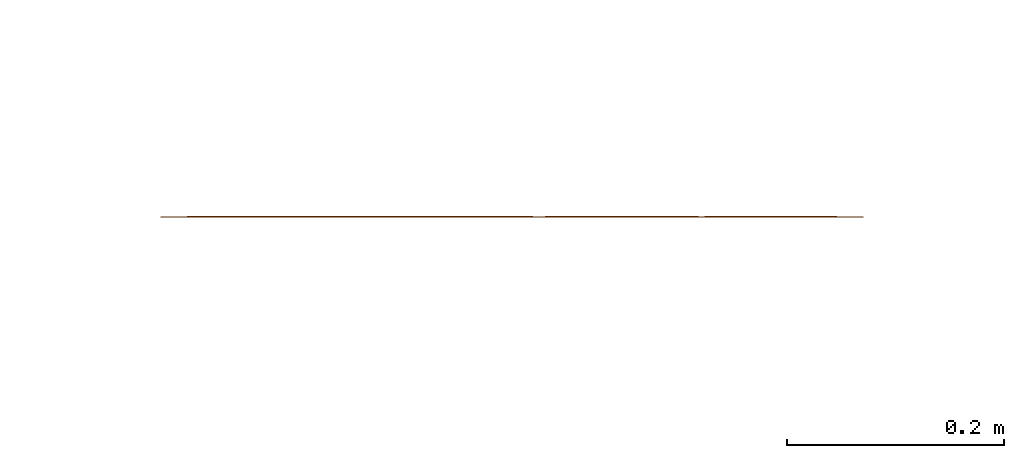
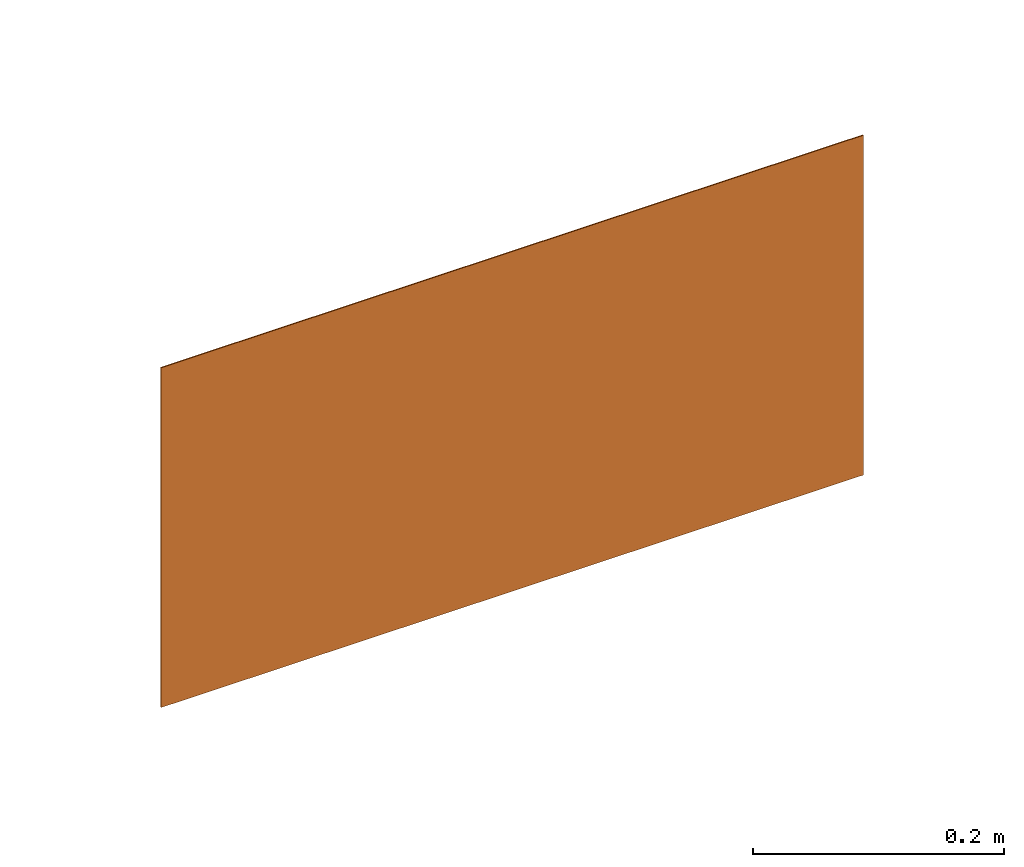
# One storey, part 51 of 119: 1 proxy.
"""IFC2X3 building model written with IfcOpenShell, lengths in metres."""

import ifcopenshell
import ifcopenshell.guid

model = None  # the IFC model being written
_history = None  # IfcOwnerHistory: only IFC2X3 demands one
_inside = {}  # id of a spatial element -> (the spatial element, [elements in it])
_under = {}  # id of a project, library or spatial element -> (it, [spatial elements below it])
_declared = {}  # id of a project -> (the project, [libraries it declares])
_typed = {}  # id of a type object -> (the type object, [elements of that type])
_made_of = {}  # id of a material, layer set ... -> (it, [elements and type objects made of it])


def new_model(schema):
    """Start an empty IFC model of exactly this schema.

    Asked for "IFC4X3", IfcOpenShell would pick the latest addendum, in which some entities
    have other attributes; the version numbers below select the first issue.
    IFC2X3 requires an IfcOwnerHistory on every rooted entity: one is made here for all.
    """
    global model, _history
    if schema == "IFC4X3":
        model = ifcopenshell.file(schema_version=(4, 3, 0, 0))
    else:
        model = ifcopenshell.file(schema=schema)
    _inside.clear()
    _under.clear()
    _declared.clear()
    _typed.clear()
    _made_of.clear()
    _history = None
    if model.schema == "IFC2X3":
        org = make("IfcOrganization", Name="unknown")
        user = make(
            "IfcPersonAndOrganization",
            ThePerson=make("IfcPerson", FamilyName="unknown"),
            TheOrganization=org,
        )
        app = make(
            "IfcApplication",
            ApplicationDeveloper=org,
            Version="unknown",
            ApplicationFullName="unknown",
            ApplicationIdentifier="unknown",
        )
        _history = make(
            "IfcOwnerHistory",
            OwningUser=user,
            OwningApplication=app,
            ChangeAction="ADDED",
            CreationDate=0,
        )
    return model


def make(cls, **values):
    """One entity of the class cls with the attributes given. An attribute that is None is left unset."""
    return model.create_entity(
        cls, **{name: value for name, value in values.items() if value is not None}
    )


def entity(cls, *values):
    """Any entity or typed value of the class cls, its attributes in the order of the schema. None: left unset."""
    e = model.create_entity(cls)
    for i, value in enumerate(values):
        if value is not None:
            e[i] = value
    return e


def rooted(cls, **values):
    """An entity with a GlobalId (a new one), such as an element, a storey or a relation."""
    return make(cls, GlobalId=ifcopenshell.guid.new(), OwnerHistory=_history, **values)


def si_unit(unit_type, name, prefix=None):
    """IfcSIUnit, for example si_unit("LENGTHUNIT", "METRE", prefix="MILLI")."""
    return make("IfcSIUnit", UnitType=unit_type, Prefix=prefix, Name=name)


def converted_unit(unit_type, name, factor, base, dimensions=None, offset=None):
    """IfcConversionBasedUnit, such as the inch: factor (a typed value) times the base unit."""
    return make(
        "IfcConversionBasedUnit"
        if offset is None
        else "IfcConversionBasedUnitWithOffset",
        ConversionOffset=offset,
        Dimensions=None
        if dimensions is None
        else entity("IfcDimensionalExponents", *dimensions),
        UnitType=unit_type,
        Name=name,
        ConversionFactor=make(
            "IfcMeasureWithUnit", ValueComponent=factor, UnitComponent=base
        ),
    )


def derived_unit(unit_type, elements):
    """IfcDerivedUnit: a product of units, each with its exponent."""
    return make(
        "IfcDerivedUnit",
        Elements=[
            make("IfcDerivedUnitElement", Unit=unit, Exponent=power)
            for unit, power in elements
        ],
        UnitType=unit_type,
    )


def assignment(units):
    """IfcUnitAssignment: the units of a project."""
    return None if units is None else make("IfcUnitAssignment", Units=units)


def point(xyz):
    """IfcCartesianPoint."""
    return None if xyz is None else make("IfcCartesianPoint", Coordinates=xyz)


def direction(xyz):
    """IfcDirection."""
    return None if xyz is None else make("IfcDirection", DirectionRatios=xyz)


def frame(location, z_axis=None, x_axis=None):
    """IfcAxis2Placement3D, a coordinate frame: its origin and axes. An axis left out is left unset."""
    return make(
        "IfcAxis2Placement3D",
        Location=point(location),
        Axis=direction(z_axis),
        RefDirection=direction(x_axis),
    )


def frame_2d(location, x_axis=None):
    """IfcAxis2Placement2D, a coordinate frame in the plane: its origin and x axis."""
    return make(
        "IfcAxis2Placement2D", Location=point(location), RefDirection=direction(x_axis)
    )


def origin():
    """The frame at (0, 0, 0) with its axes left unset."""
    return frame((0.0, 0.0, 0.0))


def origin_2d_with_axis():
    """The frame at (0, 0) in the plane with the x axis (1, 0) written out."""
    return frame_2d((0.0, 0.0), x_axis=(1.0, 0.0))


def place(relative_to, where):
    """IfcLocalPlacement: puts the frame where relative to a parent placement (None: the world)."""
    return make(
        "IfcLocalPlacement", PlacementRelTo=relative_to, RelativePlacement=where
    )


def context(
    kind, dimensions, precision=None, world=None, true_north=None, identifier=None
):
    """IfcGeometricRepresentationContext, for example the 3D "Model" context."""
    return make(
        "IfcGeometricRepresentationContext",
        ContextIdentifier=identifier,
        ContextType=kind,
        CoordinateSpaceDimension=dimensions,
        Precision=precision,
        WorldCoordinateSystem=world,
        TrueNorth=true_north,
    )


def subcontext(parent, identifier, kind, view, scale=None):
    """IfcGeometricRepresentationSubContext, for example "Body" below "Model"."""
    return make(
        "IfcGeometricRepresentationSubContext",
        ContextIdentifier=identifier,
        ContextType=kind,
        ParentContext=parent,
        TargetScale=scale,
        TargetView=view,
    )


def project(units=None, contexts=None):
    """IfcProject with its units and contexts."""
    return rooted(
        "IfcProject",
        Name="project",
        RepresentationContexts=contexts,
        UnitsInContext=assignment(units),
    )


def spatial(cls, under=None, at=None, **own):
    """A site, building, storey or space (cls), placed at a placement, below another one or the project."""
    s = rooted(cls, ObjectPlacement=at, **own)
    if under is not None:
        _under.setdefault(under.id(), (under, []))[1].append(s)
    return s


def polyline(points):
    """IfcPolyline through the points."""
    return make("IfcPolyline", Points=[point(p) for p in points])


def profile(cls, at=None, kind="AREA", **sizes):
    """A parametric profile (cls). Its sizes go by their IFC names, for example OverallWidth=200.0."""
    return make(cls, ProfileType=kind, Position=at, **sizes)


def rectangle(**sizes):
    """IfcRectangleProfileDef."""
    return profile("IfcRectangleProfileDef", **sizes)


def outline(outer, holes=None, kind="AREA"):
    """IfcArbitraryClosedProfileDef: a profile drawn as a closed curve; with holes, ...WithVoids."""
    if holes is None:
        return make("IfcArbitraryClosedProfileDef", ProfileType=kind, OuterCurve=outer)
    return make(
        "IfcArbitraryProfileDefWithVoids",
        ProfileType=kind,
        OuterCurve=outer,
        InnerCurves=holes,
    )


def extrude(swept, where, along, depth):
    """IfcExtrudedAreaSolid: the profile swept, set in the frame where, extruded along a direction by depth."""
    return make(
        "IfcExtrudedAreaSolid",
        SweptArea=swept,
        Position=where,
        ExtrudedDirection=direction(along),
        Depth=depth,
    )


def shape(context_of_items, identifier, shape_type, items):
    """IfcShapeRepresentation: the items that make up one representation, for example the "Body"."""
    return make(
        "IfcShapeRepresentation",
        ContextOfItems=context_of_items,
        RepresentationIdentifier=identifier,
        RepresentationType=shape_type,
        Items=items,
    )


def source(mapping_origin, context_of_items, identifier, shape_type, items):
    """IfcRepresentationMap: a shape defined once, which mapped items show again and again."""
    return make(
        "IfcRepresentationMap",
        MappingOrigin=mapping_origin,
        MappedRepresentation=shape(context_of_items, identifier, shape_type, items),
    )


def transform(
    local_origin,
    x_axis=None,
    y_axis=None,
    z_axis=None,
    scale=None,
    scale2=None,
    scale3=None,
    uniform=True,
):
    """IfcCartesianTransformationOperator3D, or its non-uniform kind. x_axis, y_axis, z_axis: its Axis1, 2, 3."""
    if uniform:
        return make(
            "IfcCartesianTransformationOperator3D",
            Axis1=direction(x_axis),
            Axis2=direction(y_axis),
            LocalOrigin=point(local_origin),
            Scale=scale,
            Axis3=direction(z_axis),
        )
    return make(
        "IfcCartesianTransformationOperator3DnonUniform",
        Axis1=direction(x_axis),
        Axis2=direction(y_axis),
        LocalOrigin=point(local_origin),
        Scale=scale,
        Axis3=direction(z_axis),
        Scale2=scale2,
        Scale3=scale3,
    )


def mapped(mapping_source, mapping_target):
    """IfcMappedItem: shows the shape of a source again, moved by a transform."""
    return make(
        "IfcMappedItem", MappingSource=mapping_source, MappingTarget=mapping_target
    )


def material(Name=None, Category=None):
    """IfcMaterial."""
    return make("IfcMaterial", Name=Name, Category=Category)


def material_list(materials):
    """IfcMaterialList."""
    return make("IfcMaterialList", Materials=materials)


def made_of(thing, what):
    """Note that an element or type object is made of a material, layer set ...; save() writes the relation."""
    if what is not None:
        _made_of.setdefault(what.id(), (what, []))[1].append(thing)
    return thing


def type_object(cls, material=None, **own):
    """A type object (cls), such as IfcWallType, which elements share."""
    return made_of(rooted(cls, **own), material)


def type_shapes(of_type, sources):
    """Give a type object the sources (RepresentationMaps) that its elements show as mapped items."""
    of_type.RepresentationMaps = sources


def element(
    cls,
    number,
    at=None,
    inside=None,
    cuts=None,
    type_object=None,
    material=None,
    context=None,
    identifier="Body",
    shape_type=None,
    held_by="IfcProductDefinitionShape",
    body=None,
    shapes=None,
    **own,
):
    """One element of the class cls, such as IfcWall. Its Tag is "e" and its number.

    at: its placement. inside: the storey or other place that contains it. cuts: it is an
    opening in that element (IfcRelVoidsElement). A single representation is given by context,
    identifier, shape_type and body (its items); several are given by shapes. held_by: the class
    of the entity that holds the representations. save() writes the other relations.
    """
    e = rooted(cls, Tag="e%d" % number, ObjectPlacement=at, **own)
    if body is not None:
        shapes = [shape(context, identifier, shape_type, body)]
    if shapes is not None:
        e.Representation = make(held_by, Representations=shapes)
    if inside is not None:
        _inside.setdefault(inside.id(), (inside, []))[1].append(e)
    if cuts is not None:
        rooted(
            "IfcRelVoidsElement", RelatingBuildingElement=cuts, RelatedOpeningElement=e
        )
    if type_object is not None:
        _typed.setdefault(type_object.id(), (type_object, []))[1].append(e)
    return made_of(e, material)


def aggregate(whole, parts):
    """IfcRelAggregates: a whole, such as a stair, and the parts it consists of."""
    return rooted("IfcRelAggregates", RelatingObject=whole, RelatedObjects=parts)


def save(model, path):
    """Write the relations noted so far, then the file.

    IfcRelAggregates (storeys below a building ...), IfcRelContainedInSpatialStructure (elements
    in a storey), IfcRelDefinesByType, IfcRelAssociatesMaterial and IfcRelDeclares: one each for
    every whole, place, type object, material and project.
    """
    for whole, parts in _under.values():
        aggregate(whole, parts)
    for where, things in _inside.values():
        rooted(
            "IfcRelContainedInSpatialStructure",
            RelatedElements=things,
            RelatingStructure=where,
        )
    for kind, things in _typed.values():
        rooted("IfcRelDefinesByType", RelatedObjects=things, RelatingType=kind)
    for what, things in _made_of.values():
        rooted("IfcRelAssociatesMaterial", RelatedObjects=things, RelatingMaterial=what)
    for by, libraries in _declared.values():
        rooted("IfcRelDeclares", RelatingContext=by, RelatedDefinitions=libraries)
    model.write(path)


model = new_model("IFC2X3")

# Units and contexts
model_context = context("Model", 3, precision=1e-05, world=origin(), true_north=direction((6.12303176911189e-17, 1.0)))
body_context = subcontext(model_context, "Body", "Model", "MODEL_VIEW")
ifc_project = project(units=[si_unit("LENGTHUNIT", "METRE"), si_unit("AREAUNIT", "SQUARE_METRE"), si_unit("VOLUMEUNIT", "CUBIC_METRE"), converted_unit("PLANEANGLEUNIT", "DEGREE", entity("IfcRatioMeasure", 0.0174532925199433), si_unit("PLANEANGLEUNIT", "RADIAN"), dimensions=[0, 0, 0, 0, 0, 0, 0]), si_unit("MASSUNIT", "GRAM", prefix="KILO"), derived_unit("MASSDENSITYUNIT", [(si_unit("MASSUNIT", "GRAM", prefix="KILO"), 1), (si_unit("LENGTHUNIT", "METRE"), -3)]), derived_unit("MOMENTOFINERTIAUNIT", [(si_unit("LENGTHUNIT", "METRE"), 4)]), si_unit("TIMEUNIT", "SECOND"), si_unit("FREQUENCYUNIT", "HERTZ"), si_unit("THERMODYNAMICTEMPERATUREUNIT", "DEGREE_CELSIUS"), derived_unit("THERMALTRANSMITTANCEUNIT", [(si_unit("MASSUNIT", "GRAM", prefix="KILO"), 1), (si_unit("THERMODYNAMICTEMPERATUREUNIT", "KELVIN"), -1), (si_unit("TIMEUNIT", "SECOND"), -3)]), derived_unit("VOLUMETRICFLOWRATEUNIT", [(si_unit("LENGTHUNIT", "METRE"), 3), (si_unit("TIMEUNIT", "SECOND"), -1)]), si_unit("ELECTRICCURRENTUNIT", "AMPERE"), si_unit("ELECTRICVOLTAGEUNIT", "VOLT"), si_unit("POWERUNIT", "WATT"), si_unit("FORCEUNIT", "NEWTON", prefix="KILO"), si_unit("ILLUMINANCEUNIT", "LUX"), si_unit("LUMINOUSFLUXUNIT", "LUMEN"), si_unit("LUMINOUSINTENSITYUNIT", "CANDELA"), derived_unit("USERDEFINED", [(si_unit("MASSUNIT", "GRAM", prefix="KILO"), -1), (si_unit("LENGTHUNIT", "METRE"), -2), (si_unit("TIMEUNIT", "SECOND"), 3), (si_unit("LUMINOUSFLUXUNIT", "LUMEN"), 1)]), derived_unit("LINEARVELOCITYUNIT", [(si_unit("LENGTHUNIT", "METRE"), 1), (si_unit("TIMEUNIT", "SECOND"), -1)]), si_unit("PRESSUREUNIT", "PASCAL"), derived_unit("USERDEFINED", [(si_unit("LENGTHUNIT", "METRE"), -2), (si_unit("MASSUNIT", "GRAM", prefix="KILO"), 1), (si_unit("TIMEUNIT", "SECOND"), -2)]), derived_unit("LINEARFORCEUNIT", [(si_unit("MASSUNIT", "GRAM", prefix="KILO"), 1), (si_unit("LENGTHUNIT", "METRE"), 1), (si_unit("TIMEUNIT", "SECOND"), -2), (si_unit("LENGTHUNIT", "METRE"), -1)]), derived_unit("PLANARFORCEUNIT", [(si_unit("MASSUNIT", "GRAM", prefix="KILO"), 1), (si_unit("LENGTHUNIT", "METRE"), 1), (si_unit("TIMEUNIT", "SECOND"), -2), (si_unit("LENGTHUNIT", "METRE"), -2)])], contexts=[model_context])

# Site, building, storey
site_placement = place(None, origin())
site = spatial("IfcSite", under=ifc_project, at=site_placement, Name="Default", CompositionType="ELEMENT")
building_placement = place(site_placement, origin())
building = spatial("IfcBuilding", under=site, at=building_placement, CompositionType="ELEMENT")
storey_placement = place(building_placement, origin())
storey = spatial("IfcBuildingStorey", under=building, at=storey_placement, Name="PAV. 01 - TÉRREO", CompositionType="ELEMENT", Elevation=0.0)

# Proxy
ifc_material_1 = material(Name="Plastico branco")
ifc_material_2 = material(Name="Plastico Verde")
ifc_material_list = material_list([ifc_material_1, ifc_material_2])
building_element_proxy_type = type_object("IfcBuildingElementProxyType", Name="Sinalização de orientação - S12 - Saída de emergência:Distância 20m", PredefinedType="NOTDEFINED", material=ifc_material_1)
shared_shape = source(origin(), body_context, "Body", "SweptSolid", [
    extrude(outline(polyline([(0.0376954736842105, -0.0454956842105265), (0.0705927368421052, -0.0454956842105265), (0.0183030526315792, 0.105552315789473), (-0.0183529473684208, 0.105552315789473), (-0.0714076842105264, -0.0454956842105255), (-0.0368472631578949, -0.0454956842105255), (-0.027200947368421, -0.0145609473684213), (0.0272175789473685, -0.0145609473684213), (0.0376954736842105, -0.0454956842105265)]), holes=[polyline([(-0.0183529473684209, 0.0115506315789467), (0.000141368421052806, 0.0715241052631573), (0.0183030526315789, 0.0115506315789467), (-0.0183529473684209, 0.0115506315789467)])]), frame((0.227960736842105, -0.0011, 3.63618684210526), z_axis=(0.0, 1.0, 0.0), x_axis=(-1.0, 0.0, 0.0)), (0.0, 0.0, 1.0), 0.0011),
    extrude(outline(polyline([(0.00169642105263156, -0.0153010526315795), (0.0223528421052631, -0.0153010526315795), (0.00329305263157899, 0.0153010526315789), (-0.0273423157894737, 0.0153010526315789), (0.00169642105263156, -0.0153010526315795)])), frame((0.0069519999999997, -0.0011, 3.77250757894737), z_axis=(0.0, 1.0, 0.0), x_axis=(-1.0, 0.0, 0.0)), (0.0, 0.0, 1.0), 0.0011),
    extrude(rectangle(XDim=0.0011, YDim=0.030968, at=origin_2d_with_axis()), frame((-0.00367557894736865, -0.00055, 3.59069115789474), z_axis=(0.0, 0.0, 1.0), x_axis=(0.0, 1.0, 0.0)), (0.0, 0.0, 1.0), 0.151048),
    extrude(outline(polyline([(0.0376247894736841, -0.0454956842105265), (0.0704887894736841, -0.0454956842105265), (0.0182323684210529, 0.105552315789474), (-0.0184568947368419, 0.105552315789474), (-0.0707798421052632, -0.0454956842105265), (-0.0369512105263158, -0.0454956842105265), (-0.0273048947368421, -0.0145609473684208), (0.0271468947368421, -0.0145609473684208), (0.0376247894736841, -0.0454956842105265)]), holes=[polyline([(-0.018456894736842, 0.0115506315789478), (3.74210526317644e-05, 0.0715241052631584), (0.0182323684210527, 0.0115506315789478), (-0.018456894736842, 0.0115506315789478)])]), frame((-0.101049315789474, -0.0011, 3.63618684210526), z_axis=(0.0, 1.0, 0.0), x_axis=(-1.0, 0.0, 0.0)), (0.0, 0.0, 1.0), 0.0011),
    extrude(outline(polyline([(-0.0987312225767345, -0.0692916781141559), (-0.0390903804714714, -0.0692916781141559), (-0.0259090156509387, -0.0690015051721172), (-0.015711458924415, -0.0679295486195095), (-0.00762154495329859, -0.0657736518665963), (-0.000763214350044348, -0.062231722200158), (0.00552600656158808, -0.0571304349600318), (0.0112471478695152, -0.0506952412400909), (0.0162735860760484, -0.0432285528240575), (0.0204786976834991, -0.0350327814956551), (0.0237358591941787, -0.0264103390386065), (0.0259649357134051, -0.0176406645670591), (0.0272763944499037, -0.00890900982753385), (0.0278295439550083, -0.000376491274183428), (0.0277836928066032, 0.00779577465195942), (0.0272981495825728, 0.0154466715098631), (0.0265127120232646, 0.0224446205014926), (0.0253600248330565, 0.0289716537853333), (0.0236478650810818, 0.0353988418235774), (0.0211822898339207, 0.0420998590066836), (0.017769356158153, 0.0494483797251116), (0.0131642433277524, 0.0577443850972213), (0.00648808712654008, 0.0663694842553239), (-0.00356821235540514, 0.0740821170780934), (-0.0183219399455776, 0.0796288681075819), (-0.0390903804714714, 0.0817563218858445), (-0.0987312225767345, 0.0817563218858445), (-0.0987312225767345, -0.0692916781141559)]), holes=[polyline([(-0.0677299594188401, 0.0556447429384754), (-0.0390903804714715, 0.0556447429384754), (-0.0307359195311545, 0.0546713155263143), (-0.0238840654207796, 0.0520574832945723), (-0.0183755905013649, 0.0482629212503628), (-0.0140512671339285, 0.0437473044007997), (-0.0107521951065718, 0.0389334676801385), (-0.00832187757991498, 0.033973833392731), (-0.0066048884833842, 0.0289003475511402), (-0.00544580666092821, 0.0237444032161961), (-0.00468921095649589, 0.0185373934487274), (-0.00418569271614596, 0.0133093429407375), (-0.00388873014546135, 0.00806686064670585), (-0.00383818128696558, 0.00279689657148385), (-0.00407658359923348, -0.00251420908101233), (-0.00464647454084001, -0.00788011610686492), (-0.00559039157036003, -0.0133144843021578), (-0.00695529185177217, -0.0188075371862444), (-0.00881691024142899, -0.0241968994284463), (-0.0112625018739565, -0.0292591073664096), (-0.0143793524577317, -0.0337705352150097), (-0.0182547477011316, -0.037507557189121), (-0.0229507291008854, -0.0402659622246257), (-0.0282499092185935, -0.0420564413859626), (-0.0337610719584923, -0.0430233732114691), (-0.0390903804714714, -0.0433131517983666), (-0.0677299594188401, -0.0433131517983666), (-0.0677299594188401, 0.0556447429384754)])]), frame((0.133025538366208, -0.0011, 3.67244747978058), z_axis=(0.0, 1.0, 0.0), x_axis=(1.0, 0.0, 0.0)), (0.0, 0.0, 1.0), 0.0011),
    extrude(outline(polyline([(-0.0574831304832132, 0.0312104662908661), (-0.0278789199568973, 0.0312104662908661), (-0.0266149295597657, 0.036124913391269), (-0.0251060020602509, 0.040204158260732), (-0.0233574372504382, 0.043538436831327), (-0.0213745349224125, 0.0462179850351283), (-0.0191625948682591, 0.048333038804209), (-0.0167269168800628, 0.0499738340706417), (-0.0140728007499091, 0.0512306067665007), (-0.0112055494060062, 0.0521935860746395), (-0.00813940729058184, 0.0529337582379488), (-0.00491714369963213, 0.0534607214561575), (-0.00158720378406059, 0.0537718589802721), (0.00180196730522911, 0.0538645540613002), (0.00520192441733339, 0.0537361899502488), (0.00856422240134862, 0.0533841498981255), (0.0118404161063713, 0.0528058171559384), (0.0149820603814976, 0.0519985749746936), (0.0179380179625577, 0.0509495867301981), (0.0206451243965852, 0.0496003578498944), (0.0230368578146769, 0.0478796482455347), (0.0250466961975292, 0.0457162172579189), (0.0266081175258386, 0.043038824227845), (0.027654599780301, 0.039776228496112), (0.0281196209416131, 0.0358571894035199), (0.027936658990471, 0.0312104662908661), (0.0270808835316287, 0.0286066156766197), (0.0255323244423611, 0.0263499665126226), (0.0233445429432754, 0.0243963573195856), (0.020571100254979, 0.0227016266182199), (0.0172655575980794, 0.0212216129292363), (0.0134814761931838, 0.0199121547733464), (0.00927241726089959, 0.0187290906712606), (0.00469194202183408, 0.0176282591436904), (-0.0162655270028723, 0.0131619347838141), (-0.021854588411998, 0.0117970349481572), (-0.0274211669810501, 0.0102287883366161), (-0.0328768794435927, 0.00840313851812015), (-0.0381333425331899, 0.00626602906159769), (-0.0431021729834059, 0.00376340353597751), (-0.047694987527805, 0.000841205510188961), (-0.051823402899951, -0.00255462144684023), (-0.0553990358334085, -0.00647813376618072), (-0.0583335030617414, -0.0109833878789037), (-0.0605384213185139, -0.0161244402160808), (-0.0619254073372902, -0.0219553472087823), (-0.0624060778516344, -0.0285301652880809), (-0.0614580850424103, -0.0401353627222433), (-0.0587034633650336, -0.050021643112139), (-0.0542724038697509, -0.0582833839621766), (-0.048295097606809, -0.0650149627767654), (-0.0409017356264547, -0.0703107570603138), (-0.0322225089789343, -0.0742651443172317), (-0.0223876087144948, -0.0769725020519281), (-0.0115272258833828, -0.0785272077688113), (0.00022844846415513, -0.0790236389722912), (0.0105685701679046, -0.0784476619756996), (0.0204533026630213, -0.0766900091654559), (0.0296795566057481, -0.0737177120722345), (0.0380442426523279, -0.0694978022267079), (0.0453442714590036, -0.0639973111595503), (0.0513765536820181, -0.0571832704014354), (0.0559379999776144, -0.0490227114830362), (0.0588255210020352, -0.0394826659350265), (0.0598360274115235, -0.0285301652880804), (0.0296663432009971, -0.0285301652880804), (0.0292112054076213, -0.0336041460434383), (0.0279224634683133, -0.0379372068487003), (0.0259151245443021, -0.0415888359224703), (0.023304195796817, -0.0446185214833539), (0.0202046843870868, -0.047085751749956), (0.0167315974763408, -0.0490500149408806), (0.0129999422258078, -0.0505707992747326), (0.00912472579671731, -0.0517075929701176), (0.00521918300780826, -0.0525188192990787), (0.00135318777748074, -0.0530368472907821), (-0.00244824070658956, -0.0532670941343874), (-0.00616215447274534, -0.053213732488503), (-0.00976560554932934, -0.0528809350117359), (-0.0132356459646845, -0.0522728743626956), (-0.0165493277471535, -0.0513937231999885), (-0.0196837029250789, -0.0502476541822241), (-0.0226158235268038, -0.0488388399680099), (-0.0253148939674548, -0.0471644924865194), (-0.0277033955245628, -0.0451803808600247), (-0.029686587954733, -0.0428269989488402), (-0.0311697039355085, -0.0400448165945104), (-0.0320579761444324, -0.036774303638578), (-0.0322566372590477, -0.0329559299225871), (-0.0316709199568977, -0.0285301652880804), (-0.0303724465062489, -0.0255638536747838), (-0.0278577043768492, -0.0229636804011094), (-0.0243560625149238, -0.02069431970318), (-0.0200968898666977, -0.0187204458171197), (-0.0153095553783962, -0.0170067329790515), (-0.0102234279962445, -0.0155178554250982), (-0.00506787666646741, -0.014218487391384), (0.0142120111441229, -0.010006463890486), (0.0187157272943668, -0.00893032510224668), (0.0231174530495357, -0.0077357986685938), (0.0274294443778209, -0.00636831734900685), (0.031663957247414, -0.00477331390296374), (0.0358332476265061, -0.00289622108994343), (0.0399331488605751, -0.000678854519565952), (0.0438729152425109, 0.00195603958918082), (0.047533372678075, 0.00509197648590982), (0.0507953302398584, 0.00881247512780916), (0.0535395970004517, 0.0132010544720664), (0.0556469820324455, 0.0183412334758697), (0.0569982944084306, 0.024316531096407), (0.0574743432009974, 0.0312104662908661), (0.0568973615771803, 0.0401466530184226), (0.0551054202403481, 0.048505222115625), (0.0519995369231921, 0.0561595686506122), (0.0474807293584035, 0.0629830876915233), (0.0414500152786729, 0.0688491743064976), (0.0338084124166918, 0.0736312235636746), (0.024456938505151, 0.0772026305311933), (0.013296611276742, 0.0794367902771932), (0.0002284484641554, 0.0802070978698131), (-0.0142842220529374, 0.0789872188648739), (-0.0269292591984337, 0.075473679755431), (-0.0375736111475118, 0.0698867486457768), (-0.0460842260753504, 0.0624466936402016), (-0.0523280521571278, 0.0533737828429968), (-0.0561720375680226, 0.0428882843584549), (-0.0574831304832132, 0.0312104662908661)])), frame((-0.239532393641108, -0.0011, 3.66565669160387), z_axis=(0.0, 1.0, 0.0), x_axis=(-1.0, 0.0, 0.0)), (0.0, 0.0, 1.0), 0.0011),
    extrude(rectangle(XDim=0.001, YDim=0.632, at=origin_2d_with_axis()), frame((0.0, -0.0005, 3.5075), z_axis=(0.0, 0.0, 1.0), x_axis=(0.0, 1.0, 0.0)), (0.0, 0.0, 1.0), 0.316000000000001),
    extrude(outline(polyline([(-0.165500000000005, -0.323499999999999), (0.165500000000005, -0.323499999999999), (0.165500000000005, 0.323499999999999), (-0.165500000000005, 0.323499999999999), (-0.165500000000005, -0.323499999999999)]), holes=[polyline([(-0.157999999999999, -0.315999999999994), (-0.157999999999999, 0.316000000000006), (0.158000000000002, 0.316000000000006), (0.158000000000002, -0.315999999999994), (-0.157999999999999, -0.315999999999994)])]), frame((0.0, -0.001, 3.66550000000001), z_axis=(0.0, 1.0, 0.0), x_axis=(0.0, 0.0, -1.0)), (0.0, 0.0, 1.0), 0.001),
])
type_shapes(building_element_proxy_type, [shared_shape])
proxy_placement = place(storey_placement, frame((42.02632989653, -5.41661806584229, 0.0), z_axis=(0.0, 0.0, 1.0), x_axis=(-1.0, 0.0, 0.0)))
element("IfcBuildingElementProxy", 1, at=proxy_placement, inside=storey, type_object=building_element_proxy_type, material=ifc_material_list, Name="Sinalização de orientação - S12 - Saída de emergência:Distância 20m", ObjectType="Sinalização de orientação - S12 - Saída de emergência:Distância 20m", context=body_context, shape_type="MappedRepresentation", body=[
    mapped(shared_shape, transform((0.0, 0.0, 0.0), scale=1.0)),
])

save(model, "model.ifc")
